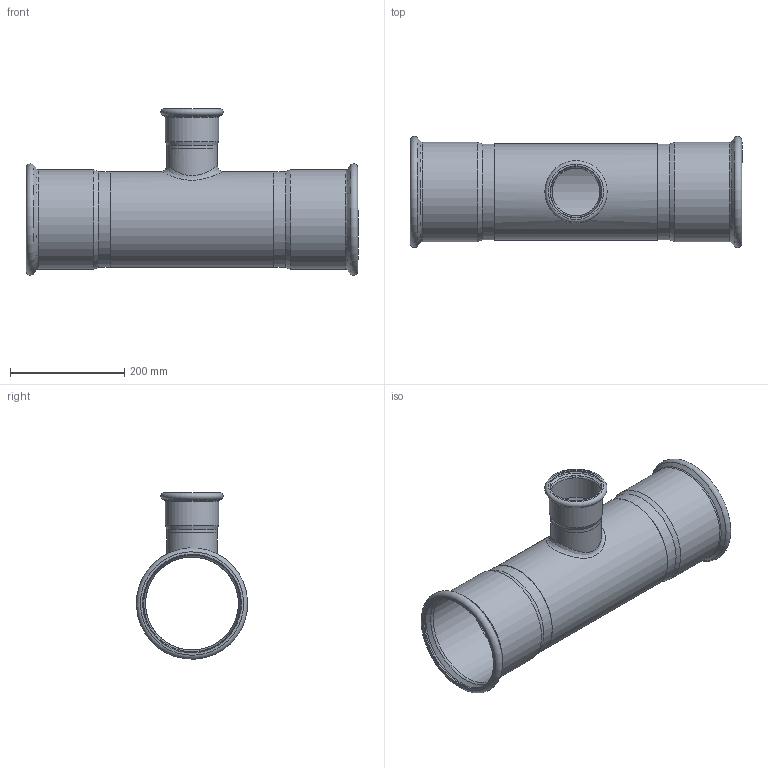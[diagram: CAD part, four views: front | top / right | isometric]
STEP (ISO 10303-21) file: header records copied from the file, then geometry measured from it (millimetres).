
FILE_DESCRIPTION((''),'2;1');
FILE_NAME('G:\Nirosan-Schmiedefeld\Technics\CAD\001 Serie 9.000\169_va\6913016889168H(0).stp','2020-10-06T08:28:28',('herberg'),(''),'Autodesk Inventor 2009','Autodesk Inventor 2009','');
FILE_SCHEMA(('AUTOMOTIVE_DESIGN { 1 0 10303 214 1 1 1 1 }'));
Length unit declared in the file: millimetre
Products named in the file (4): 6913016889168H(0); 6913016889168P(0); 69HM168P(0); 69HM89P(0)
Assembly tree (4 placements, depth 2):
  6913016889168H(0)
    6913016889168P(0)
    69HM168P(0)  x2
    69HM89P(0)
Bounding box: 582 x 195.06 x 291.53 mm (x, y, z)
Volume: 898291.5 mm3; surface area: 711317 mm2
Topology: 4 solids, 4 shells, 59 faces, 114 edges, 63 vertices
Faces by surface type: cone 20, cylinder 17, bspline 8, plane 8, torus 6
Full cylindrical faces by diameter (mm): 83.7 x1, 84.9 x1, 88.9 x2, 89.5 x1, 91 x1, 93.5 x1, 163.1 x3, 168.3 x3, 169.3 x2, 174.5 x2
Entity records: 3497 total; most frequent: CARTESIAN_POINT 2663, DIRECTION 168, ORIENTED_EDGE 90, AXIS2_PLACEMENT_3D 84, EDGE_LOOP 84, EDGE_CURVE 45, VERTEX_POINT 43, FACE_OUTER_BOUND 42
